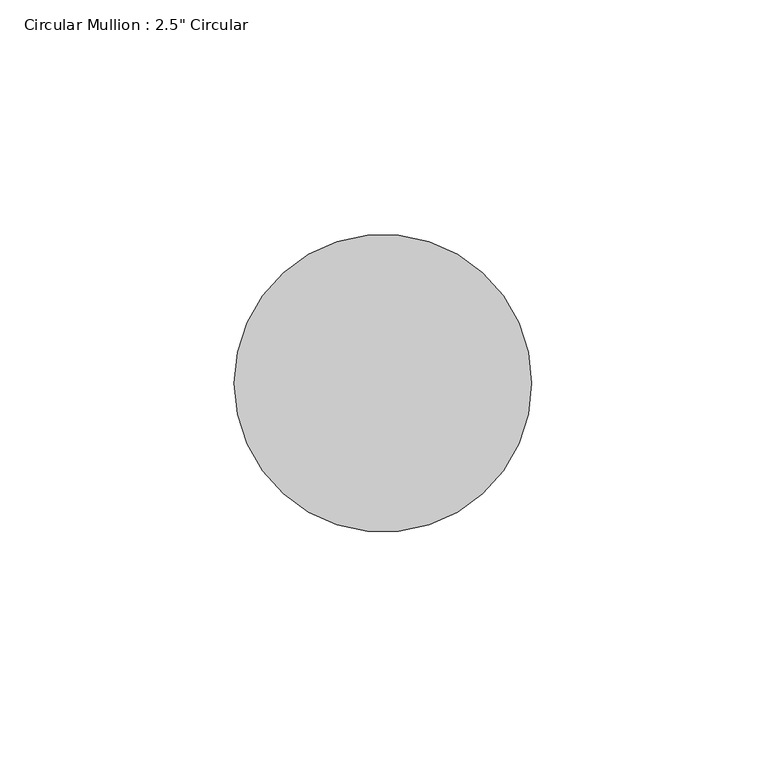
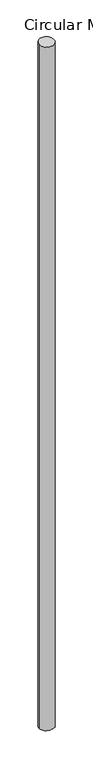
"""IFC4 building model written with IfcOpenShell, lengths in millimetres: member geometry."""

from ifc_helpers import new_model, si_unit, frame, origin, origin_with_axes, place, context, project, spatial, ellipse_curve, source, transform, mapped, element, save
from ifc_brep_helpers import plane_surface, cylinder_surface, advanced_brep


def member_c74fcd82(model_context):
    return source(origin(), model_context, "Body", "AdvancedBrep", [
        advanced_brep(
        [(-31.75, 0.0, 0.4201093), (31.75, 0.0, -0.4201093), (31.75, 0.0, -3055.4083793), (-31.75, 0.0, -3056.4838188)],
        [
            (0, 1, ellipse_curve(frame((0.0, 0.0, 0.0), z_axis=(-0.013217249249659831, 0.044963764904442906, -0.9989011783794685), x_axis=(-0.2817113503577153, 0.9583539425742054, 0.046866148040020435)), 31.784926, 31.75)),
            (1, 2),
            (2, 3, ellipse_curve(frame((0.0, 0.0, -3055.9460991), z_axis=(-0.01690404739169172, 0.05908005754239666, 0.9981101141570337), x_axis=(0.27456277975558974, -0.9596036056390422, 0.061450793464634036)), 31.8101175, 31.75)),
            (3, 0),
            (1, 0, ellipse_curve(frame((0.0, 0.0, 0.0), z_axis=(-0.013217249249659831, 0.044963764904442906, -0.9989011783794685), x_axis=(-0.2817113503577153, 0.9583539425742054, 0.046866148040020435)), 31.784926, 31.75)),
            (3, 2, ellipse_curve(frame((0.0, 0.0, -3055.9460991), z_axis=(-0.01690404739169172, 0.05908005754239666, 0.9981101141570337), x_axis=(0.27456277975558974, -0.9596036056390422, 0.061450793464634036)), 31.8101175, 31.75)),
        ],
        [
            cylinder_surface(origin_with_axes(), 31.75),
            plane_surface(frame((292.4276075, 85.9600744, 0.0), z_axis=(0.013217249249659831, -0.044963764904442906, 0.9989011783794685), x_axis=(0.2817113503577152, -0.9583539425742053, -0.046866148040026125))),
            plane_surface(frame((293.040993, 83.8451931, -3055.9460991), z_axis=(0.01690404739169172, -0.05908005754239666, -0.9981101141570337), x_axis=(0.2745627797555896, -0.959603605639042, 0.06145079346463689))),
        ],
        [
            (0, [[1, 2, 3, 4]]),
            (0, [[5, -4, 6, -2]]),
            (1, [[-1, -5]]),
            (2, [[-6, -3]]),
        ],
    ),
    ])


if __name__ == "__main__":
    model = new_model("IFC4")
    model_context = context("Model", 3, world=origin())
    ifc_project = project(units=[si_unit("LENGTHUNIT", "METRE", prefix="MILLI")], contexts=[model_context])
    site = spatial("IfcSite", under=ifc_project)
    building = spatial("IfcBuilding", under=site)
    placement = place(None, origin())
    member_shape = member_c74fcd82(model_context)
    element("IfcMember", 1, ObjectType="Circular Mullion : 2.5\" Circular", at=placement, inside=building, context=model_context, shape_type="MappedRepresentation", body=[
        mapped(member_shape, transform((0.0, 0.0, 0.0), x_axis=(1.0, 0.0, 0.0), y_axis=(0.0, 1.0, 0.0), z_axis=(0.0, 0.0, 1.0))),
    ])
    save(model, "model.ifc")
